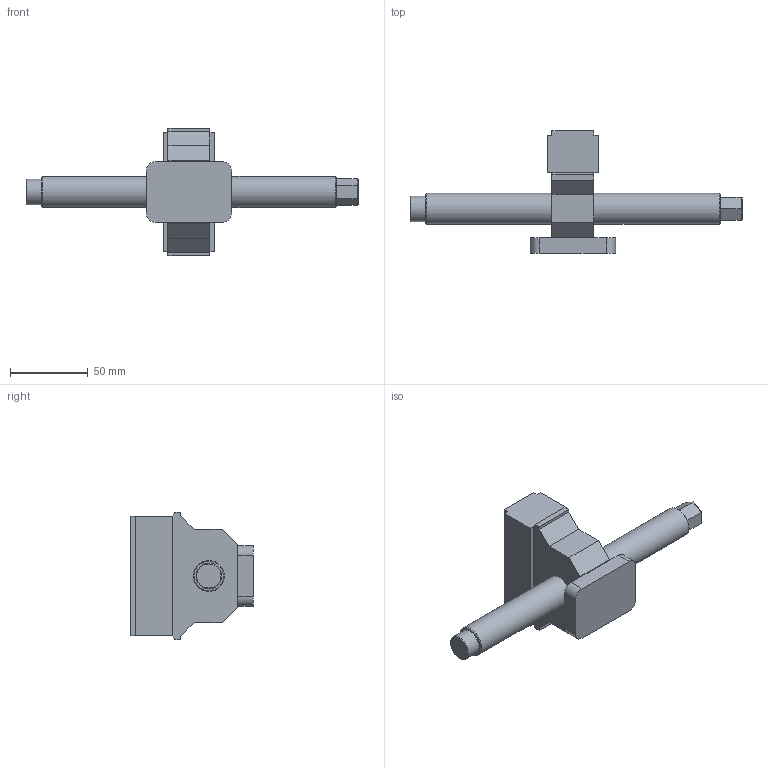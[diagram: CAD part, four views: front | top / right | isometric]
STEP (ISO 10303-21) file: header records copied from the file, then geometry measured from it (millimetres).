
FILE_DESCRIPTION (( 'STEP AP214' ), '1' );
FILE_NAME ('48205-TG7727.STEP', '2020-03-24T15:25:59', ( '' ), ( '' ), 'SwSTEP 2.0', 'SolidWorks 2019', '' );
FILE_SCHEMA (( 'AUTOMOTIVE_DESIGN' ));
Length unit declared in the file: millimetre
Products named in the file (1): 48205-TG7727
Bounding box: 214 x 79 x 82 mm (x, y, z)
Volume: 214502.2 mm3; surface area: 33636.5 mm2
Topology: 1 solids, 1 shells, 73 faces, 177 edges, 111 vertices
Faces by surface type: plane 63, cylinder 7, cone 3
Full cylindrical faces by diameter (mm): 16.5 x1, 20 x2
Entity records: 2792 total; most frequent: CARTESIAN_POINT 352, ORIENTED_EDGE 338, DIRECTION 334, EDGE_CURVE 169, LINE 152, VECTOR 152, VERTEX_POINT 109, AXIS2_PLACEMENT_3D 91
